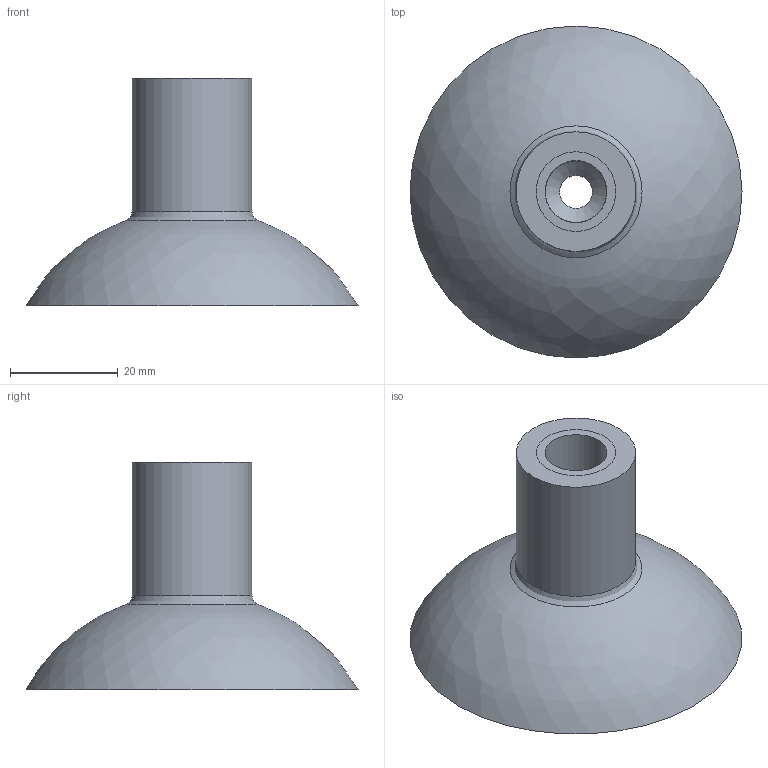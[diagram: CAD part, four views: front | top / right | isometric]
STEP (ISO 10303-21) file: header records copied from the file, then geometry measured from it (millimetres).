
FILE_DESCRIPTION((''),'2;1');
FILE_NAME('S:\Technik\Konstruktion\CAD-Daten\Kundenmodelle\110.060.085_Kd.stp','2010-10-05T09:16:59',('JGarcia-Martinez'),(''),'Autodesk Inventor 2009','Autodesk Inventor 2009','');
FILE_SCHEMA(('AUTOMOTIVE_DESIGN { 1 0 10303 214 1 1 1 1 }'));
Length unit declared in the file: millimetre
Products named in the file (3): 110.060
Assembly tree (2 placements, depth 2):
  110.060
    110.060
    110.060
Bounding box: 61.6 x 61.6 x 42.2 mm (x, y, z)
Volume: 36979.4 mm3; surface area: 11205.8 mm2
Topology: 2 solids, 2 shells, 14 faces, 23 edges, 14 vertices
Faces by surface type: cylinder 6, plane 5, bspline 2, cone 1
Full cylindrical faces by diameter (mm): 6.1 x1, 11.4 x1, 11.5 x1, 14.8 x2, 22.2 x1
Entity records: 449 total; most frequent: CARTESIAN_POINT 117, DIRECTION 62, AXIS2_PLACEMENT_3D 31, ORIENTED_EDGE 28, EDGE_LOOP 28, VERTEX_POINT 14, CIRCLE 14, EDGE_CURVE 14
